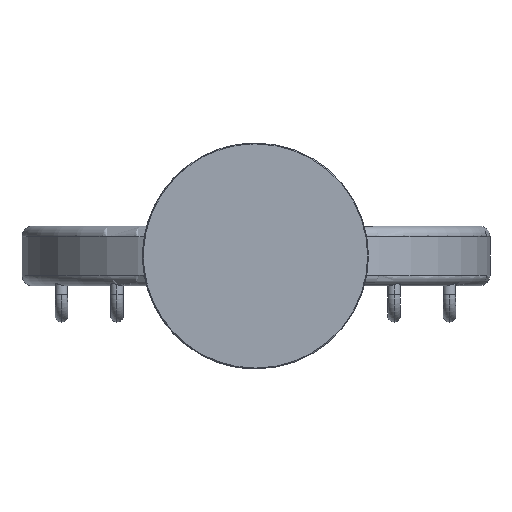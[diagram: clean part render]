
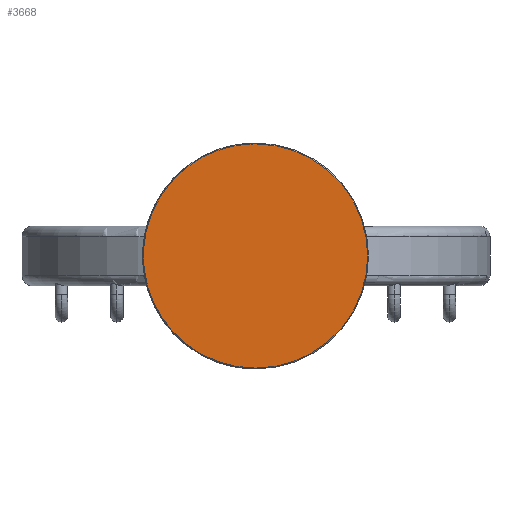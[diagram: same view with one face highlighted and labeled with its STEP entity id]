
A CAD part, front view. The second image highlights one B-rep face of the part: STEP entity #3668.
In plain terms, the highlighted planar face has unit normal (0, -1, 0).
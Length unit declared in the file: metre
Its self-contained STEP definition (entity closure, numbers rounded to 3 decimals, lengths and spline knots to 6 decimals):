
#62=EDGE_CURVE('',#63,#65,#67,.F.);
#63=VERTEX_POINT('',#64);
#64=CARTESIAN_POINT('',(0.0,0.0,-0.0263));
#65=VERTEX_POINT('',#66);
#66=CARTESIAN_POINT('',(0.0,0.0,0.0263));
#67=CIRCLE('',#68,0.0263);
#68=AXIS2_PLACEMENT_3D('',#69,#70,#71);
#69=CARTESIAN_POINT('',(0.0,0.0,0.0));
#70=DIRECTION('',(0.0,1.0,0.0));
#71=DIRECTION('',(0.0,0.0,1.0));
#3668=ADVANCED_FACE('',(#3674),#3669,.F.);
#3669=PLANE('',#3670);
#3670=AXIS2_PLACEMENT_3D('',#3671,#3672,#3673);
#3671=CARTESIAN_POINT('',(0.0,0.0,0.0265));
#3672=DIRECTION('',(0.0,1.0,0.0));
#3673=DIRECTION('',(0.0,0.0,1.0));
#3674=FACE_OUTER_BOUND('',#3675,.T.);
#3675=EDGE_LOOP('',(#3676,#3684));
#3676=ORIENTED_EDGE('',*,*,#3678,.T.);
#3677=CARTESIAN_POINT('',(0.0,0.0,-0.0263));
#3678=EDGE_CURVE('',#65,#63,#3679,.F.);
#3679=(B_SPLINE_CURVE(3,(#3677,#3680,#3681,#3682),.UNSPECIFIED.,.F.,.U.)B_SPLINE_CURVE_WITH_KNOTS(
  (4,4),(0.0,1.0),.UNSPECIFIED.)BOUNDED_CURVE()CURVE()GEOMETRIC_REPRESENTATION_ITEM(
  )RATIONAL_B_SPLINE_CURVE((1.0,0.333,0.333,1.0)
  )REPRESENTATION_ITEM(''));
#3680=CARTESIAN_POINT('',(-0.0526,0.0,-0.0263));
#3681=CARTESIAN_POINT('',(-0.0526,0.0,0.0263));
#3682=CARTESIAN_POINT('',(0.0,0.0,0.0263));
#3684=ORIENTED_EDGE('',*,*,#62,.T.);
